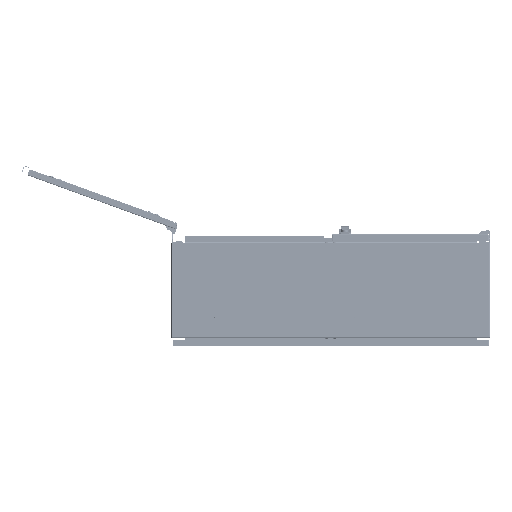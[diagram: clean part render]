
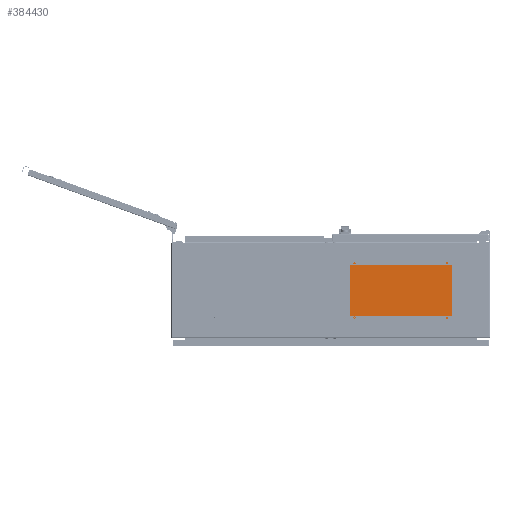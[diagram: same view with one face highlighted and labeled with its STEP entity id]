
A CAD part, front view. The second image highlights one B-rep face of the part: STEP entity #384430.
In plain terms, the highlighted planar face has unit normal (0, -1, 0).
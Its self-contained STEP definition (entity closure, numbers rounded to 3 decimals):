
#96348 = CARTESIAN_POINT ( 'NONE',  ( 75., 2003., 85.5 ) ) ;
#96915 = CARTESIAN_POINT ( 'NONE',  ( 75., 2003., 85. ) ) ;
#96917 = AXIS2_PLACEMENT_3D ( 'NONE', #96915, #97093, #97092 ) ;
#96918 = CIRCLE ( 'NONE', #96917, 0.5 ) ;
#97091 = CARTESIAN_POINT ( 'NONE',  ( 75., 2003., 84.5 ) ) ;
#97092 = DIRECTION ( 'NONE',  ( 0., 0., -1. ) ) ;
#97093 = DIRECTION ( 'NONE',  ( 0., -1., 0. ) ) ;
#97569 = CARTESIAN_POINT ( 'NONE',  ( 75., 2003., -85.5 ) ) ;
#97571 = CARTESIAN_POINT ( 'NONE',  ( 75., 2003., -84.5 ) ) ;
#97803 = CARTESIAN_POINT ( 'NONE',  ( 365., 2003., -85.5 ) ) ;
#98002 = CARTESIAN_POINT ( 'NONE',  ( 365., 2003., 84.5 ) ) ;
#98025 = DIRECTION ( 'NONE',  ( 0., 0., -1. ) ) ;
#98027 = DIRECTION ( 'NONE',  ( 0., 1., 0. ) ) ;
#98030 = AXIS2_PLACEMENT_3D ( 'NONE', #98040, #98027, #98025 ) ;
#98032 = CIRCLE ( 'NONE', #98030, 0.5 ) ;
#98040 = CARTESIAN_POINT ( 'NONE',  ( 75., 2003., -85. ) ) ;
#98357 = DIRECTION ( 'NONE',  ( 0., 0., -1. ) ) ;
#98360 = DIRECTION ( 'NONE',  ( 0., 1., 0. ) ) ;
#98362 = CARTESIAN_POINT ( 'NONE',  ( 365., 2003., -85. ) ) ;
#98363 = AXIS2_PLACEMENT_3D ( 'NONE', #98362, #98360, #98357 ) ;
#98364 = CIRCLE ( 'NONE', #98363, 0.5 ) ;
#98376 = CARTESIAN_POINT ( 'NONE',  ( 365., 2003., -84.5 ) ) ;
#98583 = CARTESIAN_POINT ( 'NONE',  ( 365., 2003., 85.5 ) ) ;
#98645 = DIRECTION ( 'NONE',  ( 0., 0., -1. ) ) ;
#98646 = DIRECTION ( 'NONE',  ( 0., 1., 0. ) ) ;
#98648 = CARTESIAN_POINT ( 'NONE',  ( 365., 2003., 85. ) ) ;
#98650 = AXIS2_PLACEMENT_3D ( 'NONE', #98648, #98646, #98645 ) ;
#98652 = CIRCLE ( 'NONE', #98650, 0.5 ) ;
#100740 = CARTESIAN_POINT ( 'NONE',  ( 409.343, 2003., -110.536 ) ) ;
#100743 = DIRECTION ( 'NONE',  ( 0.707, 0., 0.707 ) ) ;
#100745 = VECTOR ( 'NONE', #100743, 1000. ) ;
#100747 = CARTESIAN_POINT ( 'NONE',  ( 409.939, 2003., -109.939 ) ) ;
#100748 = LINE ( 'NONE', #100747, #100745 ) ;
#101305 = CARTESIAN_POINT ( 'NONE',  ( 410.536, 2003., -109.343 ) ) ;
#101403 = CARTESIAN_POINT ( 'NONE',  ( 409.343, 2003., 110.536 ) ) ;
#101404 = CARTESIAN_POINT ( 'NONE',  ( 410.536, 2003., 109.343 ) ) ;
#101405 = DIRECTION ( 'NONE',  ( -0.707, 0., 0.707 ) ) ;
#101406 = VECTOR ( 'NONE', #101405, 1000. ) ;
#101408 = CARTESIAN_POINT ( 'NONE',  ( 409.939, 2003., 109.939 ) ) ;
#101409 = LINE ( 'NONE', #101408, #101406 ) ;
#101651 = CARTESIAN_POINT ( 'NONE',  ( 30.657, 2003., -110.536 ) ) ;
#101662 = CARTESIAN_POINT ( 'NONE',  ( 29.464, 2003., -109.343 ) ) ;
#101665 = DIRECTION ( 'NONE',  ( 0.707, 0., -0.707 ) ) ;
#101667 = VECTOR ( 'NONE', #101665, 1000. ) ;
#101669 = CARTESIAN_POINT ( 'NONE',  ( 30.061, 2003., -109.939 ) ) ;
#101670 = LINE ( 'NONE', #101669, #101667 ) ;
#102089 = CARTESIAN_POINT ( 'NONE',  ( 30.657, 2003., 110.536 ) ) ;
#102494 = DIRECTION ( 'NONE',  ( -0.707, 0., -0.707 ) ) ;
#102495 = VECTOR ( 'NONE', #102494, 1000. ) ;
#102496 = CARTESIAN_POINT ( 'NONE',  ( 30.061, 2003., 109.939 ) ) ;
#102497 = LINE ( 'NONE', #102496, #102495 ) ;
#102516 = CARTESIAN_POINT ( 'NONE',  ( 29.464, 2003., 109.343 ) ) ;
#102586 = DIRECTION ( 'NONE',  ( 1., 0., 0. ) ) ;
#102588 = VECTOR ( 'NONE', #102586, 1000. ) ;
#102589 = CARTESIAN_POINT ( 'NONE',  ( 220., 2003., -110.536 ) ) ;
#102591 = LINE ( 'NONE', #102589, #102588 ) ;
#103283 = VECTOR ( 'NONE', #103384, 1000. ) ;
#103286 = CARTESIAN_POINT ( 'NONE',  ( 29.464, 2003., 0. ) ) ;
#103289 = LINE ( 'NONE', #103286, #103283 ) ;
#103384 = DIRECTION ( 'NONE',  ( 0., 0., -1. ) ) ;
#103519 = DIRECTION ( 'NONE',  ( 0., 0., 1. ) ) ;
#103521 = VECTOR ( 'NONE', #103519, 1000. ) ;
#103522 = CARTESIAN_POINT ( 'NONE',  ( 410.536, 2003., 0. ) ) ;
#103523 = LINE ( 'NONE', #103522, #103521 ) ;
#103753 = DIRECTION ( 'NONE',  ( -1., 0., 0. ) ) ;
#103755 = VECTOR ( 'NONE', #103753, 1000. ) ;
#103756 = CARTESIAN_POINT ( 'NONE',  ( 220., 2003., 110.536 ) ) ;
#103757 = LINE ( 'NONE', #103756, #103755 ) ;
#104029 = DIRECTION ( 'NONE',  ( 0., 0., -1. ) ) ;
#104032 = DIRECTION ( 'NONE',  ( 0., 1., 0. ) ) ;
#104034 = AXIS2_PLACEMENT_3D ( 'NONE', #104047, #104032, #104029 ) ;
#104035 = CIRCLE ( 'NONE', #104034, 0.5 ) ;
#104047 = CARTESIAN_POINT ( 'NONE',  ( 75., 2003., -85. ) ) ;
#104162 = FACE_OUTER_BOUND ( 'NONE', #384547, .T. ) ;
#104163 = FACE_BOUND ( 'NONE', #384780, .T. ) ;
#104165 = FACE_BOUND ( 'NONE', #384749, .T. ) ;
#104166 = FACE_BOUND ( 'NONE', #384462, .T. ) ;
#104167 = FACE_BOUND ( 'NONE', #384436, .T. ) ;
#104200 = DIRECTION ( 'NONE',  ( 0., 0., -1. ) ) ;
#104202 = DIRECTION ( 'NONE',  ( 0., 1., 0. ) ) ;
#104203 = CARTESIAN_POINT ( 'NONE',  ( 365., 2003., 85. ) ) ;
#104204 = AXIS2_PLACEMENT_3D ( 'NONE', #104203, #104202, #104200 ) ;
#104220 = CIRCLE ( 'NONE', #104204, 0.5 ) ;
#104249 = DIRECTION ( 'NONE',  ( 1., 0., 0. ) ) ;
#104250 = DIRECTION ( 'NONE',  ( 0., -1., 0. ) ) ;
#104251 = CARTESIAN_POINT ( 'NONE',  ( 29.464, 2003., -110.536 ) ) ;
#104252 = AXIS2_PLACEMENT_3D ( 'NONE', #104251, #104250, #104249 ) ;
#104255 = PLANE ( 'NONE',  #104252 ) ;
#104313 = DIRECTION ( 'NONE',  ( 0., 0., -1. ) ) ;
#104315 = DIRECTION ( 'NONE',  ( 0., 1., 0. ) ) ;
#104316 = CARTESIAN_POINT ( 'NONE',  ( 365., 2003., -85. ) ) ;
#104317 = AXIS2_PLACEMENT_3D ( 'NONE', #104316, #104315, #104313 ) ;
#104318 = CIRCLE ( 'NONE', #104317, 0.5 ) ;
#104925 = DIRECTION ( 'NONE',  ( 0., 0., -1. ) ) ;
#104927 = DIRECTION ( 'NONE',  ( 0., -1., 0. ) ) ;
#104928 = CARTESIAN_POINT ( 'NONE',  ( 75., 2003., 85. ) ) ;
#104929 = AXIS2_PLACEMENT_3D ( 'NONE', #104928, #104927, #104925 ) ;
#104930 = CIRCLE ( 'NONE', #104929, 0.5 ) ;
#380669 = VERTEX_POINT ( 'NONE', #96348 ) ;
#380910 = EDGE_CURVE ( 'NONE', #380669, #380916, #96918, .T. ) ;
#380916 = VERTEX_POINT ( 'NONE', #97091 ) ;
#381146 = VERTEX_POINT ( 'NONE', #97571 ) ;
#381153 = VERTEX_POINT ( 'NONE', #97569 ) ;
#381327 = VERTEX_POINT ( 'NONE', #97803 ) ;
#381444 = EDGE_CURVE ( 'NONE', #381153, #381146, #98032, .T. ) ;
#381482 = VERTEX_POINT ( 'NONE', #98002 ) ;
#381602 = VERTEX_POINT ( 'NONE', #98376 ) ;
#381622 = EDGE_CURVE ( 'NONE', #381327, #381602, #98364, .T. ) ;
#381746 = VERTEX_POINT ( 'NONE', #98583 ) ;
#381768 = EDGE_CURVE ( 'NONE', #381482, #381746, #98652, .T. ) ;
#382864 = EDGE_CURVE ( 'NONE', #382867, #383119, #100748, .T. ) ;
#382867 = VERTEX_POINT ( 'NONE', #100740 ) ;
#383119 = VERTEX_POINT ( 'NONE', #101305 ) ;
#383215 = EDGE_CURVE ( 'NONE', #383218, #383228, #101409, .T. ) ;
#383218 = VERTEX_POINT ( 'NONE', #101404 ) ;
#383228 = VERTEX_POINT ( 'NONE', #101403 ) ;
#383345 = EDGE_CURVE ( 'NONE', #383351, #383358, #101670, .T. ) ;
#383351 = VERTEX_POINT ( 'NONE', #101662 ) ;
#383358 = VERTEX_POINT ( 'NONE', #101651 ) ;
#383538 = VERTEX_POINT ( 'NONE', #102089 ) ;
#383764 = VERTEX_POINT ( 'NONE', #102516 ) ;
#383779 = EDGE_CURVE ( 'NONE', #383538, #383764, #102497, .T. ) ;
#383825 = EDGE_CURVE ( 'NONE', #383358, #382867, #102591, .T. ) ;
#384075 = EDGE_CURVE ( 'NONE', #383764, #383351, #103289, .T. ) ;
#384156 = EDGE_CURVE ( 'NONE', #383119, #383218, #103523, .T. ) ;
#384259 = EDGE_CURVE ( 'NONE', #383228, #383538, #103757, .T. ) ;
#384344 = EDGE_CURVE ( 'NONE', #381146, #381153, #104035, .T. ) ;
#384419 = EDGE_CURVE ( 'NONE', #381746, #381482, #104220, .T. ) ;
#384430 = ADVANCED_FACE ( 'NONE', ( #104167, #104166, #104165, #104163, #104162 ), #104255, .T. ) ;
#384436 = EDGE_LOOP ( 'NONE', ( #384442, #384455 ) ) ;
#384442 = ORIENTED_EDGE ( 'NONE', *, *, #381444, .T. ) ;
#384455 = ORIENTED_EDGE ( 'NONE', *, *, #384344, .T. ) ;
#384462 = EDGE_LOOP ( 'NONE', ( #384472, #384729 ) ) ;
#384472 = ORIENTED_EDGE ( 'NONE', *, *, #381622, .T. ) ;
#384508 = EDGE_CURVE ( 'NONE', #381602, #381327, #104318, .T. ) ;
#384547 = EDGE_LOOP ( 'NONE', ( #384563, #384586, #384595, #384881, #384893, #384904, #384917, #384944 ) ) ;
#384563 = ORIENTED_EDGE ( 'NONE', *, *, #383779, .T. ) ;
#384586 = ORIENTED_EDGE ( 'NONE', *, *, #384075, .T. ) ;
#384595 = ORIENTED_EDGE ( 'NONE', *, *, #383345, .T. ) ;
#384729 = ORIENTED_EDGE ( 'NONE', *, *, #384508, .T. ) ;
#384749 = EDGE_LOOP ( 'NONE', ( #384764, #384770 ) ) ;
#384764 = ORIENTED_EDGE ( 'NONE', *, *, #381768, .T. ) ;
#384770 = ORIENTED_EDGE ( 'NONE', *, *, #384419, .T. ) ;
#384780 = EDGE_LOOP ( 'NONE', ( #384789, #384816 ) ) ;
#384789 = ORIENTED_EDGE ( 'NONE', *, *, #384799, .F. ) ;
#384799 = EDGE_CURVE ( 'NONE', #380916, #380669, #104930, .T. ) ;
#384816 = ORIENTED_EDGE ( 'NONE', *, *, #380910, .F. ) ;
#384881 = ORIENTED_EDGE ( 'NONE', *, *, #383825, .T. ) ;
#384893 = ORIENTED_EDGE ( 'NONE', *, *, #382864, .T. ) ;
#384904 = ORIENTED_EDGE ( 'NONE', *, *, #384156, .T. ) ;
#384917 = ORIENTED_EDGE ( 'NONE', *, *, #383215, .T. ) ;
#384944 = ORIENTED_EDGE ( 'NONE', *, *, #384259, .T. ) ;
